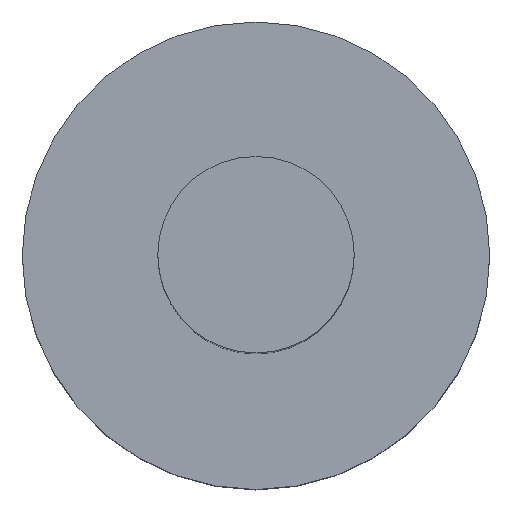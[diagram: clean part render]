
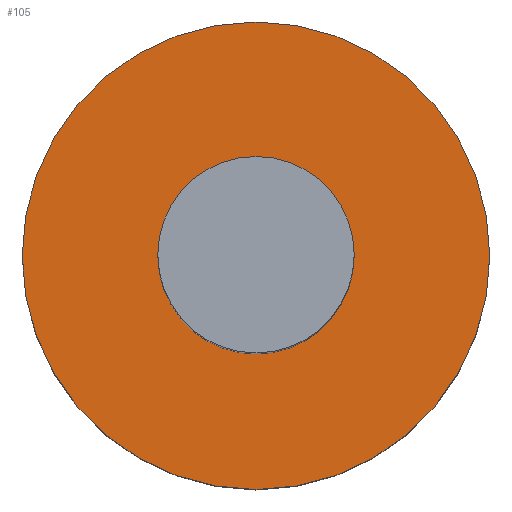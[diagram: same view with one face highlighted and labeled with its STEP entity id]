
A CAD part, top view. The second image highlights one B-rep face of the part: STEP entity #105.
In plain terms, the highlighted planar face has unit normal (0, 0, 1).
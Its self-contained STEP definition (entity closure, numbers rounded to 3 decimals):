
#21 = EDGE_CURVE('',#22,#22,#24,.T.);
#22 = VERTEX_POINT('',#23);
#23 = CARTESIAN_POINT('',(1.5,0.,-13.35));
#24 = SURFACE_CURVE('',#25,(#30,#42),.PCURVE_S1.);
#25 = CIRCLE('',#26,1.5);
#26 = AXIS2_PLACEMENT_3D('',#27,#28,#29);
#27 = CARTESIAN_POINT('',(0.,0.,-13.35));
#28 = DIRECTION('',(0.,0.,1.));
#29 = DIRECTION('',(1.,0.,-0.));
#30 = PCURVE('',#31,#36);
#31 = CYLINDRICAL_SURFACE('',#32,1.5);
#32 = AXIS2_PLACEMENT_3D('',#33,#34,#35);
#33 = CARTESIAN_POINT('',(0.,0.,-14.95));
#34 = DIRECTION('',(0.,0.,1.));
#35 = DIRECTION('',(1.,0.,-0.));
#36 = DEFINITIONAL_REPRESENTATION('',(#37),#41);
#37 = LINE('',#38,#39);
#38 = CARTESIAN_POINT('',(0.,1.6));
#39 = VECTOR('',#40,1.);
#40 = DIRECTION('',(1.,0.));
#41 = ( GEOMETRIC_REPRESENTATION_CONTEXT(2) 
PARAMETRIC_REPRESENTATION_CONTEXT() REPRESENTATION_CONTEXT('2D SPACE',''
  ) );
#42 = PCURVE('',#43,#48);
#43 = PLANE('',#44);
#44 = AXIS2_PLACEMENT_3D('',#45,#46,#47);
#45 = CARTESIAN_POINT('',(0.,0.,-13.35));
#46 = DIRECTION('',(0.,0.,1.));
#47 = DIRECTION('',(1.,0.,-0.));
#48 = DEFINITIONAL_REPRESENTATION('',(#49),#53);
#49 = CIRCLE('',#50,1.5);
#50 = AXIS2_PLACEMENT_2D('',#51,#52);
#51 = CARTESIAN_POINT('',(0.,0.));
#52 = DIRECTION('',(1.,0.));
#53 = ( GEOMETRIC_REPRESENTATION_CONTEXT(2) 
PARAMETRIC_REPRESENTATION_CONTEXT() REPRESENTATION_CONTEXT('2D SPACE',''
  ) );
#105 = ADVANCED_FACE('',(#106,#109),#43,.T.);
#106 = FACE_BOUND('',#107,.T.);
#107 = EDGE_LOOP('',(#108));
#108 = ORIENTED_EDGE('',*,*,#21,.T.);
#109 = FACE_BOUND('',#110,.T.);
#110 = EDGE_LOOP('',(#111));
#111 = ORIENTED_EDGE('',*,*,#112,.F.);
#112 = EDGE_CURVE('',#113,#113,#115,.T.);
#113 = VERTEX_POINT('',#114);
#114 = CARTESIAN_POINT('',(0.63,0.,-13.35));
#115 = SURFACE_CURVE('',#116,(#121,#128),.PCURVE_S1.);
#116 = CIRCLE('',#117,0.63);
#117 = AXIS2_PLACEMENT_3D('',#118,#119,#120);
#118 = CARTESIAN_POINT('',(0.,0.,-13.35));
#119 = DIRECTION('',(0.,0.,1.));
#120 = DIRECTION('',(1.,0.,-0.));
#121 = PCURVE('',#43,#122);
#122 = DEFINITIONAL_REPRESENTATION('',(#123),#127);
#123 = CIRCLE('',#124,0.63);
#124 = AXIS2_PLACEMENT_2D('',#125,#126);
#125 = CARTESIAN_POINT('',(0.,0.));
#126 = DIRECTION('',(1.,0.));
#127 = ( GEOMETRIC_REPRESENTATION_CONTEXT(2) 
PARAMETRIC_REPRESENTATION_CONTEXT() REPRESENTATION_CONTEXT('2D SPACE',''
  ) );
#128 = PCURVE('',#129,#134);
#129 = CYLINDRICAL_SURFACE('',#130,0.63);
#130 = AXIS2_PLACEMENT_3D('',#131,#132,#133);
#131 = CARTESIAN_POINT('',(0.,0.,-13.35));
#132 = DIRECTION('',(0.,0.,1.));
#133 = DIRECTION('',(1.,0.,-0.));
#134 = DEFINITIONAL_REPRESENTATION('',(#135),#139);
#135 = LINE('',#136,#137);
#136 = CARTESIAN_POINT('',(0.,0.));
#137 = VECTOR('',#138,1.);
#138 = DIRECTION('',(1.,0.));
#139 = ( GEOMETRIC_REPRESENTATION_CONTEXT(2) 
PARAMETRIC_REPRESENTATION_CONTEXT() REPRESENTATION_CONTEXT('2D SPACE',''
  ) );
